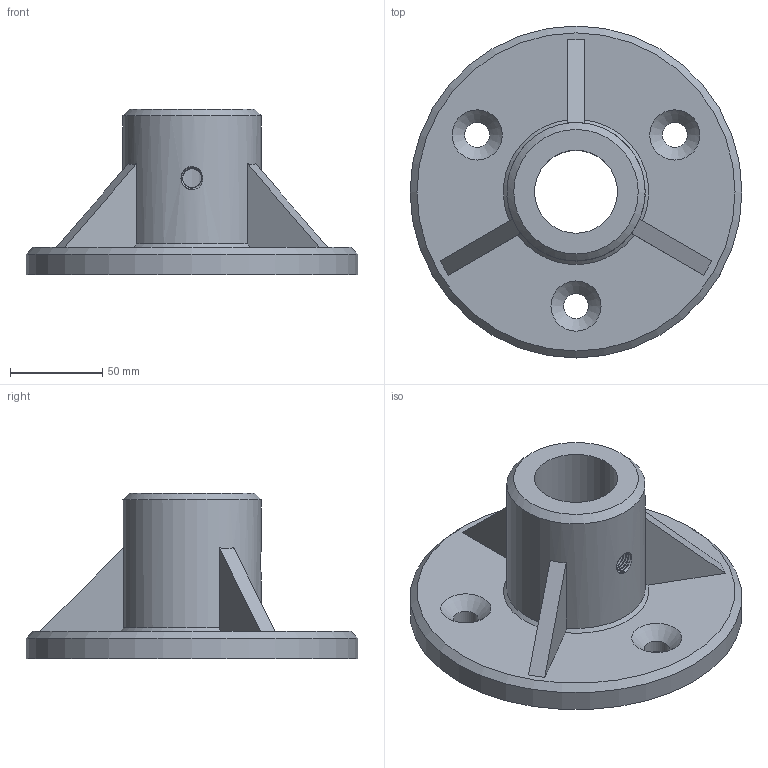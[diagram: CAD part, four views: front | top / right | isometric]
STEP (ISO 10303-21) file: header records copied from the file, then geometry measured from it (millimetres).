
FILE_DESCRIPTION(/* description */ (''),/* implementation_level */ '2;1');
FILE_NAME(/* name */ '45MM_M12.stp',/* time_stamp */ '2024-11-18T16:29:52+01:00',/* author */ (''),/* organization */ (''),/* preprocessor_version */ 'ST-DEVELOPER v20',/* originating_system */ 'SIEMENS PLM Software NX2406.4001',/* authorisation */ '');
FILE_SCHEMA (('AUTOMOTIVE_DESIGN { 1 0 10303 214 3 1 1 1 }'));
Length unit declared in the file: millimetre
Products named in the file (1): 45MM_M12
Bounding box: 180 x 180 x 90 mm (x, y, z)
Volume: 580235.5 mm3; surface area: 91136 mm2
Topology: 1 solids, 1 shells, 42 faces, 110 edges, 71 vertices
Faces by surface type: plane 14, cylinder 13, cone 13, bspline 2
Full cylindrical faces by diameter (mm): 10.3 x5, 13.5 x3, 45 x1, 75 x1, 180 x1
Entity records: 1813 total; most frequent: CARTESIAN_POINT 982, DIRECTION 159, ORIENTED_EDGE 146, EDGE_CURVE 73, AXIS2_PLACEMENT_3D 67, EDGE_LOOP 65, VERTEX_POINT 56, FACE_BOUND 48
